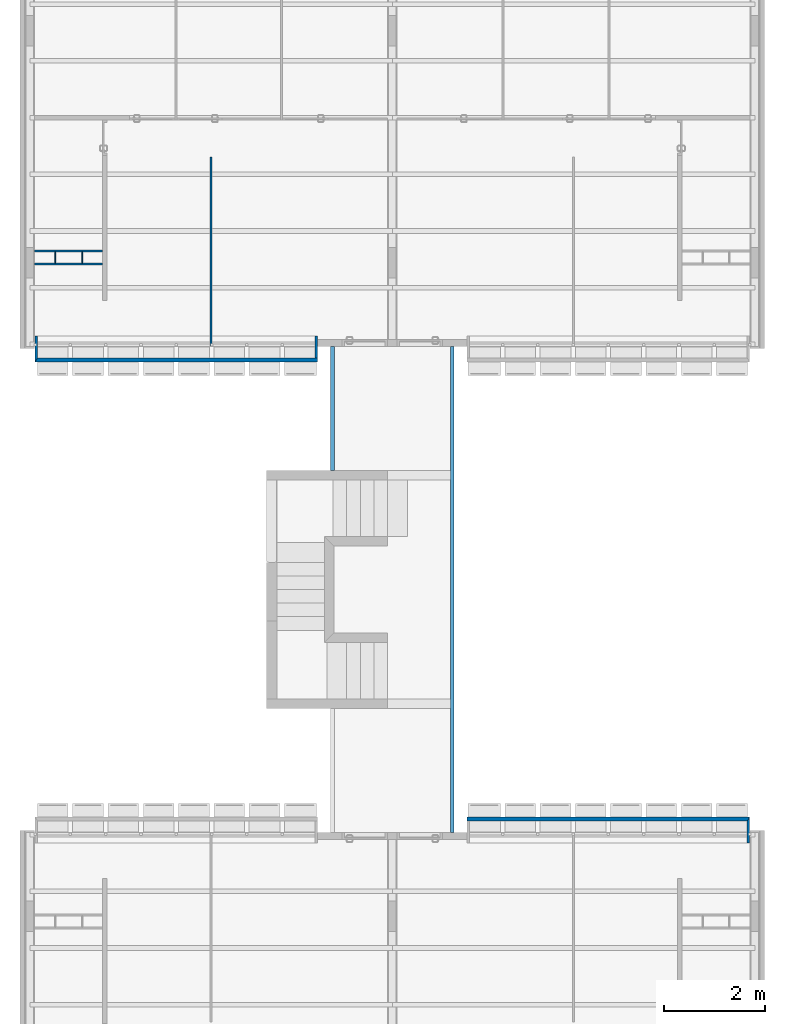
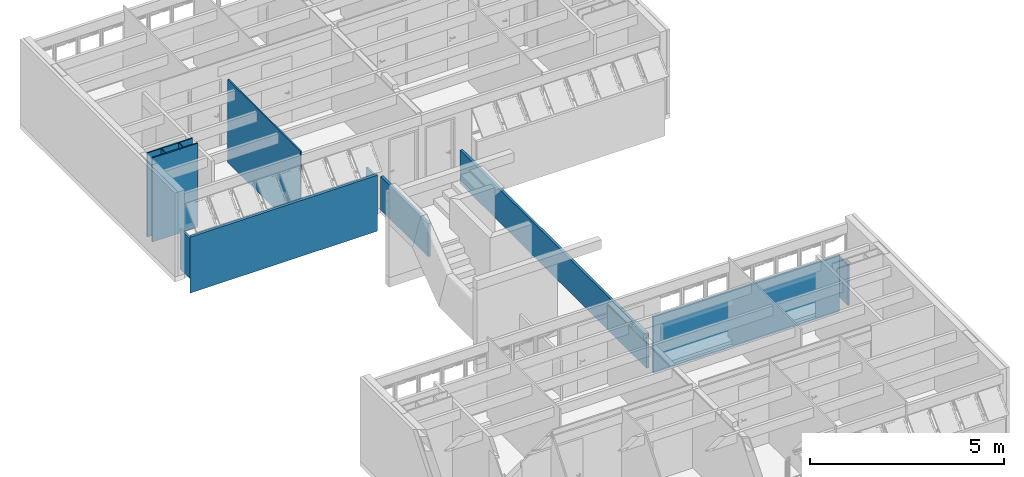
# One storey, part 30 of 40: 12 walls.
"""IFC4 building model written with IfcOpenShell, lengths in millimetres."""

from ifc_helpers import new_model, entity, si_unit, converted_unit, derived_unit, direction, frame, origin_with_axes, place, context, subcontext, project, spatial, line, indexed_curve, outline, extrude, material, layer, layer_set, layer_usage, type_object, element, save


model = new_model("IFC4")

# Units and contexts
model_context = context("Model", 3, precision=0.01, world=origin_with_axes(), true_north=direction((0.0, 1.0)))
body_context = subcontext(model_context, "Body", "Model", "MODEL_VIEW")
ifc_project = project(units=[si_unit("LENGTHUNIT", "METRE", prefix="MILLI"), si_unit("AREAUNIT", "SQUARE_METRE"), si_unit("VOLUMEUNIT", "CUBIC_METRE"), converted_unit("PLANEANGLEUNIT", "DEGREE", entity("IfcPlaneAngleMeasure", 0.0174532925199), si_unit("PLANEANGLEUNIT", "RADIAN"), dimensions=[0, 0, 0, 0, 0, 0, 0]), converted_unit("TIMEUNIT", "Year", entity("IfcTimeMeasure", 31556926.0), si_unit("TIMEUNIT", "SECOND"), dimensions=[0, 0, 1, 0, 0, 0, 0]), si_unit("MASSUNIT", "GRAM", prefix="KILO"), si_unit("THERMODYNAMICTEMPERATUREUNIT", "DEGREE_CELSIUS"), si_unit("LUMINOUSINTENSITYUNIT", "LUMEN"), si_unit("ENERGYUNIT", "JOULE", prefix="MEGA"), derived_unit("THERMALCONDUCTANCEUNIT", [(si_unit("POWERUNIT", "WATT"), 1), (si_unit("LENGTHUNIT", "METRE"), -1), (si_unit("THERMODYNAMICTEMPERATUREUNIT", "KELVIN"), -1)]), derived_unit("SPECIFICHEATCAPACITYUNIT", [(si_unit("ENERGYUNIT", "JOULE"), 1), (si_unit("MASSUNIT", "GRAM", prefix="KILO"), -1), (si_unit("THERMODYNAMICTEMPERATUREUNIT", "KELVIN"), -1)]), derived_unit("MASSDENSITYUNIT", [(si_unit("MASSUNIT", "GRAM", prefix="KILO"), 1), (si_unit("VOLUMEUNIT", "CUBIC_METRE"), -1)])], contexts=[model_context])

# Site, building, storey
site_placement = place(None, origin_with_axes())
site = spatial("IfcSite", under=ifc_project, at=site_placement, Name="Local", CompositionType="ELEMENT")
building_placement = place(site_placement, origin_with_axes())
building = spatial("IfcBuilding", under=site, at=building_placement, Name="Construção", CompositionType="ELEMENT")
storey_placement = place(building_placement, origin_with_axes())
storey = spatial("IfcBuildingStorey", under=building, at=storey_placement, Name="Primeiro Pavimento", CompositionType="ELEMENT", Elevation=0.0)

# Walls
ifc_material_1 = material(Name="GENÉRICO - VEDAÇÃO EXTERNA")
ifc_layer_1 = layer(ifc_material_1, 40.0, ventilated="UNKNOWN", Name="GENÉRICO - VEDAÇÃO EXTERNA")
ifc_layer_set_1 = layer_set([ifc_layer_1], Name="GENÉRICO - VEDAÇÃO EXTERNA 40")
ifc_layer_usage_1 = layer_usage(ifc_layer_set_1, "AXIS2", "POSITIVE", -40.0)
wall_type_1 = type_object("IfcWallType", Name="GENÉRICO - VEDAÇÃO EXTERNA 40", PredefinedType="NOTDEFINED")
wall_1_placement = place(storey_placement, frame((3810.0, 21655.0, 0.0), z_axis=(0.0, 0.0, 1.0), x_axis=(0.0, -1.0, 0.0)))
element("IfcWall", 1, at=wall_1_placement, inside=storey, type_object=wall_type_1, material=ifc_layer_usage_1, Name="APTO3-PAREDE-003", PredefinedType="NOTDEFINED", context=body_context, shape_type="SweptSolid", body=[
    extrude(outline(indexed_curve([(0.0, -40.0), (3750.0, -40.0), (3750.0, 0.0), (0.0, 0.0)], segments=[line(1, 2, 3, 4, 1)])), origin_with_axes(), (0.0, 0.0, 1.0), 2620.0),
])
ifc_layer_usage_2 = layer_usage(ifc_layer_set_1, "AXIS2", "POSITIVE", -40.0)
wall_2_placement = place(storey_placement, frame((290.0, 19815.0, 0.0), z_axis=(0.0, 0.0, 1.0), x_axis=(1.0, 0.0, 0.0)))
element("IfcWall", 2, at=wall_2_placement, inside=storey, type_object=wall_type_1, material=ifc_layer_usage_2, Name="APTO3-PAREDE-011", PredefinedType="NOTDEFINED", context=body_context, shape_type="SweptSolid", body=[
    extrude(outline(indexed_curve([(0.0, -40.0), (1350.0, -40.0), (1350.0, 0.0), (0.0, 0.0)], segments=[line(1, 2, 3, 4, 1)])), origin_with_axes(), (0.0, 0.0, 1.0), 2650.0),
])
ifc_layer_usage_3 = layer_usage(ifc_layer_set_1, "AXIS2", "POSITIVE", -40.0)
wall_3_placement = place(storey_placement, frame((1730.0, 19515.0, 0.0), z_axis=(0.0, 0.0, 1.0), x_axis=(-1.0, 0.0, 0.0)))
element("IfcWall", 3, at=wall_3_placement, inside=storey, type_object=wall_type_1, material=ifc_layer_usage_3, Name="APTO3-PAREDE-010", PredefinedType="NOTDEFINED", context=body_context, shape_type="SweptSolid", body=[
    extrude(outline(indexed_curve([(90.0, -40.0), (1440.0, -40.0), (1440.0, 0.0), (90.0, 0.0)], segments=[line(1, 2, 3, 4, 1)])), origin_with_axes(), (0.0, 0.0, 1.0), 2650.0),
])
ifc_material_2 = material(Name="Concreto Armado Moldado in Loco - Estrutural")
ifc_layer_2 = layer(ifc_material_2, 50.0, ventilated="UNKNOWN", Name="Concreto Armado Moldado in Loco - Estrutural")
ifc_layer_set_2 = layer_set([ifc_layer_2], Name="Concreto Armado Moldado in Loco - Estrutural 50")
ifc_layer_usage_4 = layer_usage(ifc_layer_set_2, "AXIS2", "NEGATIVE", 50.0)
wall_type_2 = type_object("IfcWallType", Name="Concreto Armado Moldado in Loco - Estrutural 50", PredefinedType="NOTDEFINED")
wall_4_placement = place(storey_placement, frame((14470.0, 8054.99999866, 0.0), z_axis=(0.0, 0.0, 1.0), x_axis=(0.0, 1.0, 0.0)))
element("IfcWall", 4, at=wall_4_placement, inside=storey, type_object=wall_type_2, material=ifc_layer_usage_4, Name="APTO2-PAREDE-018", PredefinedType="NOTDEFINED", context=body_context, shape_type="SweptSolid", body=[
    extrude(outline(indexed_curve([(0.0, 0.0), (510.0, 0.0), (430.0, 50.0), (0.0, 50.0)], segments=[line(1, 2, 3, 4, 1)])), origin_with_axes(), (0.0, 0.0, 1.0), 1270.0),
])
ifc_layer_usage_5 = layer_usage(ifc_layer_set_2, "AXIS2", "NEGATIVE", 50.0)
wall_5_placement = place(storey_placement, frame((5850.0, 18105.0000013, 0.0), z_axis=(0.0, 0.0, 1.0), x_axis=(0.0, -1.0, 0.0)))
element("IfcWall", 5, at=wall_5_placement, inside=storey, type_object=wall_type_2, material=ifc_layer_usage_5, Name="APTO3-PAREDE-016", PredefinedType="NOTDEFINED", context=body_context, shape_type="SweptSolid", body=[
    extrude(outline(indexed_curve([(0.0, 0.0), (435.0, 0.0), (435.0, 50.0), (0.0, 50.0)], segments=[line(1, 2, 3, 4, 1)])), origin_with_axes(), (0.0, 0.0, 1.0), 1270.0),
])
ifc_layer_usage_6 = layer_usage(ifc_layer_set_2, "AXIS2", "NEGATIVE", 50.0)
wall_6_placement = place(storey_placement, frame((300.0, 18105.0000013, 0.0), z_axis=(0.0, 0.0, 1.0), x_axis=(0.0, -1.0, 0.0)))
element("IfcWall", 6, at=wall_6_placement, inside=storey, type_object=wall_type_2, material=ifc_layer_usage_6, Name="APTO3-PAREDE-018", PredefinedType="NOTDEFINED", context=body_context, shape_type="SweptSolid", body=[
    extrude(outline(indexed_curve([(0.0, 0.0), (510.0, 0.0), (430.0, 50.0), (0.0, 50.0)], segments=[line(1, 2, 3, 4, 1)])), origin_with_axes(), (0.0, 0.0, 1.0), 1270.0),
])
ifc_layer_3 = layer(ifc_material_1, 20.0, ventilated="UNKNOWN", Name="GENÉRICO - VEDAÇÃO EXTERNA")
ifc_layer_set_3 = layer_set([ifc_layer_3], Name="GENÉRICO - VEDAÇÃO EXTERNA 20")
ifc_layer_usage_7 = layer_usage(ifc_layer_set_3, "AXIS2", "POSITIVE", -20.0)
wall_type_3 = type_object("IfcWallType", Name="GENÉRICO - VEDAÇÃO EXTERNA 20", PredefinedType="NOTDEFINED")
wall_7_placement = place(storey_placement, frame((710.0, 19815.0, 0.0), z_axis=(0.0, 0.0, 1.0), x_axis=(0.0, -1.0, 0.0)))
element("IfcWall", 7, at=wall_7_placement, inside=storey, type_object=wall_type_3, material=ifc_layer_usage_7, Name="APTO3-PAREDE-009", PredefinedType="NOTDEFINED", context=body_context, shape_type="SweptSolid", body=[
    extrude(outline(indexed_curve([(40.0, -20.0), (260.0, -20.0), (260.0, 0.0), (40.0, 0.0)], segments=[line(1, 2, 3, 4, 1)])), origin_with_axes(), (0.0, 0.0, 1.0), 2650.0),
])
ifc_layer_usage_8 = layer_usage(ifc_layer_set_3, "AXIS2", "POSITIVE", 0.0)
wall_8_placement = place(storey_placement, frame((1240.0, 19515.0, 0.0), z_axis=(0.0, 0.0, 1.0), x_axis=(0.0, 1.0, 0.0)))
element("IfcWall", 8, at=wall_8_placement, inside=storey, type_object=wall_type_3, material=ifc_layer_usage_8, Name="APTO3-PAREDE-008", PredefinedType="NOTDEFINED", context=body_context, shape_type="SweptSolid", body=[
    extrude(outline(indexed_curve([(40.0, 0.0), (260.0, 0.0), (260.0, 20.0), (40.0, 20.0)], segments=[line(1, 2, 3, 4, 1)])), origin_with_axes(), (0.0, 0.0, 1.0), 2650.0),
])
ifc_layer_4 = layer(ifc_material_1, 75.0, ventilated="UNKNOWN", Name="GENÉRICO - VEDAÇÃO EXTERNA")
ifc_layer_set_4 = layer_set([ifc_layer_4], Name="GENÉRICO - VEDAÇÃO EXTERNA 75")
ifc_layer_usage_9 = layer_usage(ifc_layer_set_4, "AXIS2", "NEGATIVE", 0.0)
wall_type_4 = type_object("IfcWallType", Name="GENÉRICO - VEDAÇÃO EXTERNA 75", PredefinedType="NOTDEFINED")
wall_9_placement = place(storey_placement, frame((8610.0, 17895.0, -50.0), z_axis=(0.0, 0.0, 1.0), x_axis=(0.0, -1.0, 0.0)))
element("IfcWall", 9, at=wall_9_placement, inside=storey, type_object=wall_type_4, material=ifc_layer_usage_9, Name="CIRC1-PAREDE-027", PredefinedType="NOTDEFINED", context=body_context, shape_type="SweptSolid", body=[
    extrude(outline(indexed_curve([(0.0, -75.0), (9630.00000134, -75.0), (9630.00000134, 0.0), (0.0, 0.0)], segments=[line(1, 2, 3, 4, 1)])), origin_with_axes(), (0.0, 0.0, 1.0), 1050.0),
])
ifc_layer_usage_10 = layer_usage(ifc_layer_set_4, "AXIS2", "NEGATIVE", 0.0)
wall_10_placement = place(storey_placement, frame((6160.0, 15440.0, -50.0), z_axis=(0.0, 0.0, 1.0), x_axis=(0.0, 1.0, 0.0)))
element("IfcWall", 10, at=wall_10_placement, inside=storey, type_object=wall_type_4, material=ifc_layer_usage_10, Name="CIRC1-PAREDE-028", PredefinedType="NOTDEFINED", context=body_context, shape_type="SweptSolid", body=[
    extrude(outline(indexed_curve([(0.0, -75.0), (2455.0, -75.0), (2455.0, 0.0), (0.0, 0.0)], segments=[line(1, 2, 3, 4, 1)])), origin_with_axes(), (0.0, 0.0, 1.0), 1050.0),
])
ifc_layer_5 = layer(ifc_material_2, 80.0, ventilated="UNKNOWN", Name="Concreto Armado Moldado in Loco - Estrutural")
ifc_layer_set_5 = layer_set([ifc_layer_5], Name="Concreto Armado Moldado in Loco - Estrutural 80")
ifc_layer_usage_11 = layer_usage(ifc_layer_set_5, "AXIS2", "POSITIVE", -80.0)
wall_type_5 = type_object("IfcWallType", Name="Concreto Armado Moldado in Loco - Estrutural 80", PredefinedType="NOTDEFINED")
wall_11_placement = place(storey_placement, frame((14470.0, 8484.99999866, -450.0), z_axis=(0.0, 0.0, 1.0), x_axis=(-1.0, 0.0, 0.0)))
element("IfcWall", 11, at=wall_11_placement, inside=storey, type_object=wall_type_5, material=ifc_layer_usage_11, Name="APTO2-PAREDE-017", PredefinedType="NOTDEFINED", context=body_context, shape_type="SweptSolid", body=[
    extrude(outline(indexed_curve([(0.0, -80.0), (5600.0, -80.0), (5600.0, 0.0), (50.0, 0.0)], segments=[line(1, 2, 3, 4, 1)])), origin_with_axes(), (0.0, 0.0, 1.0), 1765.0),
])
ifc_layer_usage_12 = layer_usage(ifc_layer_set_5, "AXIS2", "POSITIVE", -80.0)
wall_12_placement = place(storey_placement, frame((300.0, 17675.0000013, -450.0), z_axis=(0.0, 0.0, 1.0), x_axis=(1.0, 0.0, 0.0)))
element("IfcWall", 12, at=wall_12_placement, inside=storey, type_object=wall_type_5, material=ifc_layer_usage_12, Name="APTO3-PAREDE-017", PredefinedType="NOTDEFINED", context=body_context, shape_type="SweptSolid", body=[
    extrude(outline(indexed_curve([(0.0, -80.0), (5600.0, -80.0), (5600.0, 0.0), (50.0, 0.0)], segments=[line(1, 2, 3, 4, 1)])), origin_with_axes(), (0.0, 0.0, 1.0), 1765.0),
])

save(model, "model.ifc")
